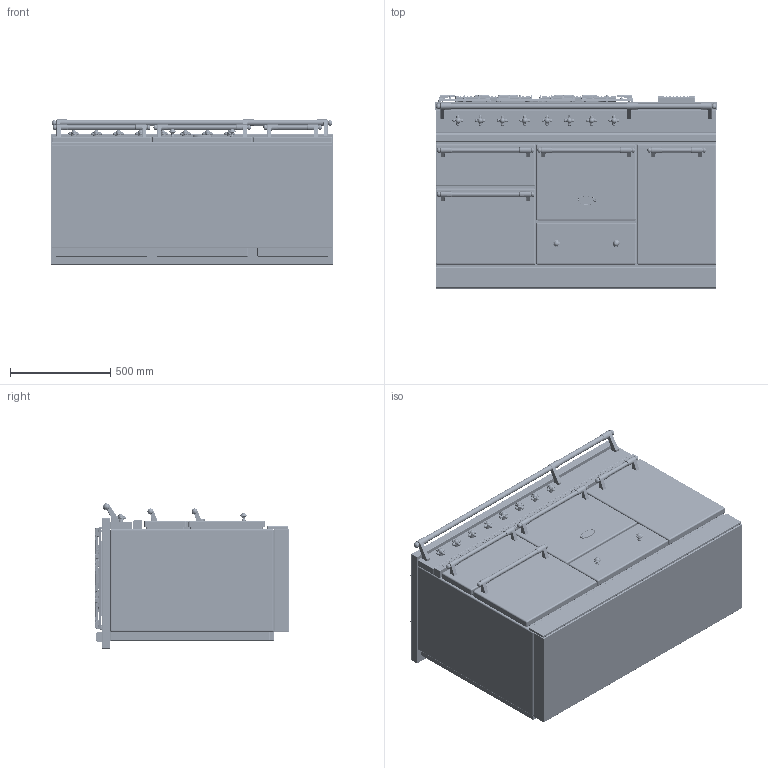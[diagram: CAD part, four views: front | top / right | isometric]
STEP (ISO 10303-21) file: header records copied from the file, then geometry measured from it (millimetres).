
FILE_DESCRIPTION((''),'2;1');
FILE_NAME('LG1453D_ASM','2021-12-02T09:49:36',('j.cheno'),(''),'CREO PARAMETRIC BY PTC INC, 2017260','CREO PARAMETRIC BY PTC INC, 2017260','');
FILE_SCHEMA(('AP203_CONFIGURATION_CONTROLLED_3D_DESIGN_OF_MECHANICAL_PARTS_AND_ASSEMBLIES_MIM_LF { 1 0 10303 403 2 1 2 }'));
Products named in the file (28): BASE_EXPORT_CHAGNY_1400D; 65650003; 65650004; 6531940; 6531941; 6538399; 1931942; 65080022_AF0; 6531942_ASM; 6531943; 65049009; 65650001; 65650006; BASE_EXPORT_CHAGNY_1400D_ASM; TABLE_1405D_CLASSIQUE; 3KW; 5KW; 1_5KW; 4KW; 6537025; 65149005; 90000488_ASM; 6537023; 90000565_ASM; CHEMINEE_2020_LG371_EXPORT_STEP; CHEMINEE_2020_LG182_EXPORT_STEP; TABLE_1405D_CLASSIQUE_ASM; LG1453D_ASM
Assembly tree (52 placements, depth 4):
  LG1453D_ASM
    BASE_EXPORT_CHAGNY_1400D_ASM
      BASE_EXPORT_CHAGNY_1400D
      65650003
      65650004
      6531940  x4
      6531941  x4
      6531942_ASM  x8
        6538399
        1931942
        65080022_AF0
      6531943  x2
      65049009
      65650001
      65650006
    TABLE_1405D_CLASSIQUE_ASM
      TABLE_1405D_CLASSIQUE
      3KW  x2
      5KW
      1_5KW
      4KW
      90000488_ASM  x2
        6537025
        65149005
      90000565_ASM  x2
        6537023
        65149005
      CHEMINEE_2020_LG371_EXPORT_STEP  x2
      CHEMINEE_2020_LG182_EXPORT_STEP
Bounding box: 1405 x 965 x 724 mm (x, y, z)
Volume: 753267065.5 mm3; surface area: 11666323.3 mm2
Topology: 78 solids, 91 shells, 8740 faces, 22541 edges, 13906 vertices
Faces by surface type: plane 3511, cylinder 2692, bspline 1203, cone 397, torus 373, sphere 278, extrusion 266, revolution 20
Entity records: 168879 total; most frequent: CARTESIAN_POINT 51536, ORIENTED_EDGE 20128, DIRECTION 18503, EDGE_CURVE 10076, AXIS2_PLACEMENT_3D 6441, VERTEX_POINT 6236, VECTOR 5534, LINE 5484
